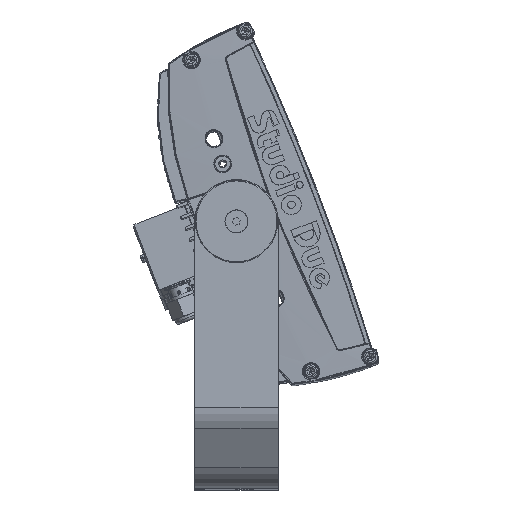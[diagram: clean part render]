
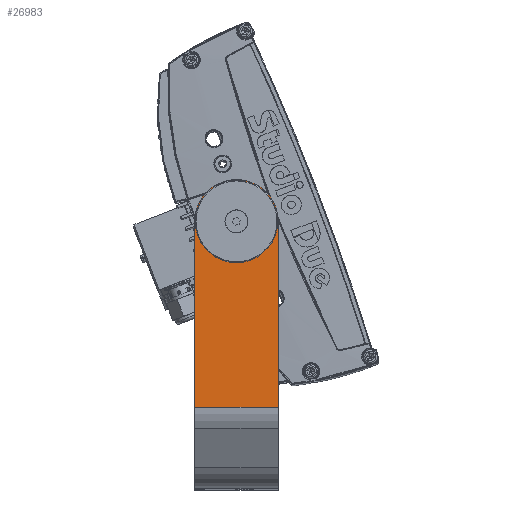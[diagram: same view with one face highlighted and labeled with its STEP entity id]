
A CAD part, top view. The second image highlights one B-rep face of the part: STEP entity #26983.
In plain terms, the highlighted planar face has unit normal (0, 0, 1).
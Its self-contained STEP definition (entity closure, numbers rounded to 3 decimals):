
#1240=FACE_BOUND('',#3717,.T.);
#1472=PLANE('',#29072);
#2105=FACE_OUTER_BOUND('',#3716,.T.);
#3716=EDGE_LOOP('',(#18279,#18280,#18281,#18282));
#3717=EDGE_LOOP('',(#18283));
#5539=LINE('',#40394,#7609);
#5544=LINE('',#40406,#7614);
#5545=LINE('',#40408,#7615);
#7609=VECTOR('',#32305,10.);
#7614=VECTOR('',#32324,10.);
#7615=VECTOR('',#32327,10.);
#9606=CIRCLE('',#29014,4.);
#9612=CIRCLE('',#29025,30.);
#11165=VERTEX_POINT('',#40271);
#11178=VERTEX_POINT('',#40305);
#11179=VERTEX_POINT('',#40307);
#11198=VERTEX_POINT('',#40391);
#11199=VERTEX_POINT('',#40393);
#13864=EDGE_CURVE('',#11165,#11165,#9606,.T.);
#13880=EDGE_CURVE('',#11178,#11179,#9612,.T.);
#13924=EDGE_CURVE('',#11198,#11199,#5539,.T.);
#13931=EDGE_CURVE('',#11178,#11199,#5544,.T.);
#13932=EDGE_CURVE('',#11179,#11198,#5545,.T.);
#18279=ORIENTED_EDGE('',*,*,#13880,.F.);
#18280=ORIENTED_EDGE('',*,*,#13931,.T.);
#18281=ORIENTED_EDGE('',*,*,#13924,.F.);
#18282=ORIENTED_EDGE('',*,*,#13932,.F.);
#18283=ORIENTED_EDGE('',*,*,#13864,.T.);
#26983=ADVANCED_FACE('',(#2105,#1240),#1472,.T.);
#29014=AXIS2_PLACEMENT_3D('',#40273,#32171,#32172);
#29025=AXIS2_PLACEMENT_3D('',#40308,#32203,#32204);
#29072=AXIS2_PLACEMENT_3D('',#40412,#32334,#32335);
#32171=DIRECTION('center_axis',(0.,0.,
-1.));
#32172=DIRECTION('ref_axis',(-1.,0.,0.));
#32203=DIRECTION('center_axis',(0.,0.,
-1.));
#32204=DIRECTION('ref_axis',(0.707,0.707,0.));
#32305=DIRECTION('',(-1.,0.,0.));
#32324=DIRECTION('',(0.,-1.,0.));
#32327=DIRECTION('',(0.,-1.,0.));
#32334=DIRECTION('center_axis',(0.,0.,
1.));
#32335=DIRECTION('ref_axis',(1.,0.,0.));
#40271=CARTESIAN_POINT('',(34.,186.144,344.));
#40273=CARTESIAN_POINT('Origin',(30.,186.144,344.));
#40305=CARTESIAN_POINT('',(0.,186.144,344.));
#40307=CARTESIAN_POINT('',(60.,186.144,344.));
#40308=CARTESIAN_POINT('Origin',(30.,186.144,344.));
#40391=CARTESIAN_POINT('',(60.,53.264,344.));
#40393=CARTESIAN_POINT('',(0.,53.264,344.));
#40394=CARTESIAN_POINT('',(30.,53.264,344.));
#40406=CARTESIAN_POINT('',(0.,216.144,344.));
#40408=CARTESIAN_POINT('',(60.,216.144,344.));
#40412=CARTESIAN_POINT('Origin',(30.,-51.818,344.));
